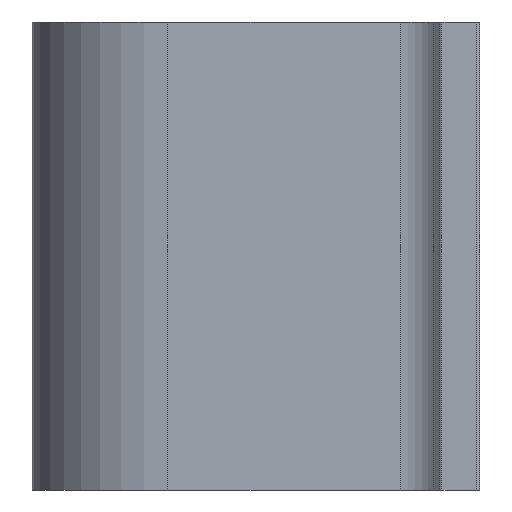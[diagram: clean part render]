
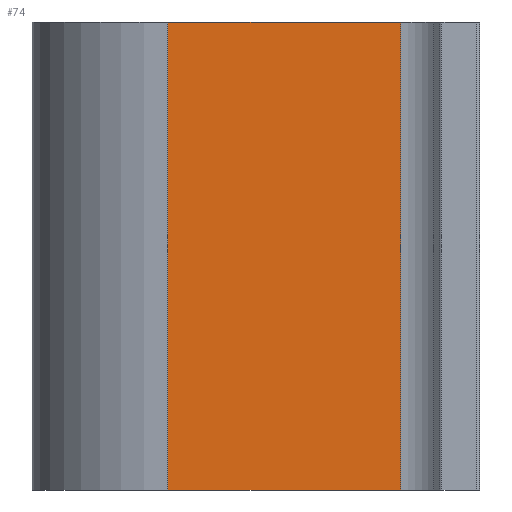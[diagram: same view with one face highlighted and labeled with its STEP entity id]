
A CAD part, left-side view. The second image highlights one B-rep face of the part: STEP entity #74.
In plain terms, the highlighted planar face has unit normal (-1, 0, 0).
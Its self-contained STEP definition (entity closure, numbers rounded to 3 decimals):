
#67 = VECTOR ( 'NONE', #268, 1000. ) ;
#74 = ADVANCED_FACE ( 'NONE', ( #1512 ), #283, .F. ) ;
#136 = DIRECTION ( 'NONE',  ( 0., -1., 0. ) ) ;
#248 = DIRECTION ( 'NONE',  ( 0., 1., 0. ) ) ;
#267 = VERTEX_POINT ( 'NONE', #1345 ) ;
#268 = DIRECTION ( 'NONE',  ( 0., 0., -1. ) ) ;
#283 = PLANE ( 'NONE',  #566 ) ;
#293 = DIRECTION ( 'NONE',  ( 0., -1., 0. ) ) ;
#434 = LINE ( 'NONE', #1404, #1299 ) ;
#440 = VERTEX_POINT ( 'NONE', #828 ) ;
#445 = DIRECTION ( 'NONE',  ( 0., 0., -1. ) ) ;
#452 = CARTESIAN_POINT ( 'NONE',  ( -8.675, 0., 30. ) ) ;
#466 = VECTOR ( 'NONE', #136, 1000. ) ;
#515 = EDGE_LOOP ( 'NONE', ( #650, #1221, #1138, #591 ) ) ;
#566 = AXIS2_PLACEMENT_3D ( 'NONE', #1606, #1478, #248 ) ;
#591 = ORIENTED_EDGE ( 'NONE', *, *, #846, .T. ) ;
#650 = ORIENTED_EDGE ( 'NONE', *, *, #785, .T. ) ;
#722 = VERTEX_POINT ( 'NONE', #1040 ) ;
#785 = EDGE_CURVE ( 'NONE', #1731, #267, #837, .T. ) ;
#828 = CARTESIAN_POINT ( 'NONE',  ( -8.675, -14.932, 30. ) ) ;
#837 = LINE ( 'NONE', #1489, #466 ) ;
#846 = EDGE_CURVE ( 'NONE', #722, #1731, #1215, .T. ) ;
#956 = CARTESIAN_POINT ( 'NONE',  ( -8.675, 0., 30. ) ) ;
#983 = VECTOR ( 'NONE', #293, 1000. ) ;
#1040 = CARTESIAN_POINT ( 'NONE',  ( -8.675, 0., 30. ) ) ;
#1138 = ORIENTED_EDGE ( 'NONE', *, *, #1321, .F. ) ;
#1215 = LINE ( 'NONE', #956, #67 ) ;
#1221 = ORIENTED_EDGE ( 'NONE', *, *, #1364, .F. ) ;
#1299 = VECTOR ( 'NONE', #445, 1000. ) ;
#1321 = EDGE_CURVE ( 'NONE', #722, #440, #1395, .T. ) ;
#1345 = CARTESIAN_POINT ( 'NONE',  ( -8.675, -14.932, 0. ) ) ;
#1364 = EDGE_CURVE ( 'NONE', #440, #267, #434, .T. ) ;
#1395 = LINE ( 'NONE', #452, #983 ) ;
#1404 = CARTESIAN_POINT ( 'NONE',  ( -8.675, -14.932, 30. ) ) ;
#1478 = DIRECTION ( 'NONE',  ( 1., 0., 0. ) ) ;
#1489 = CARTESIAN_POINT ( 'NONE',  ( -8.675, 0., 0. ) ) ;
#1512 = FACE_OUTER_BOUND ( 'NONE', #515, .T. ) ;
#1547 = CARTESIAN_POINT ( 'NONE',  ( -8.675, 0., 0. ) ) ;
#1606 = CARTESIAN_POINT ( 'NONE',  ( -8.675, 0., 30. ) ) ;
#1731 = VERTEX_POINT ( 'NONE', #1547 ) ;
